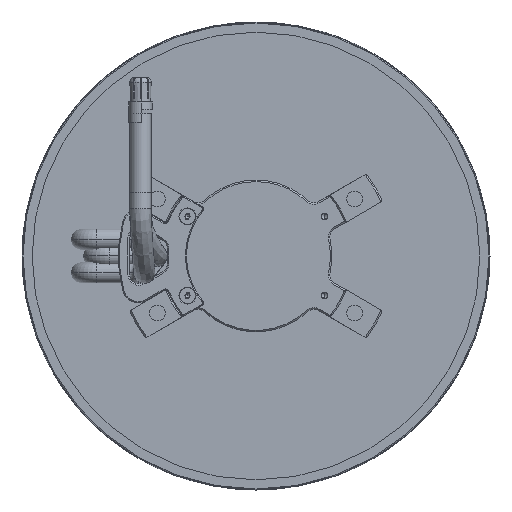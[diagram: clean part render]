
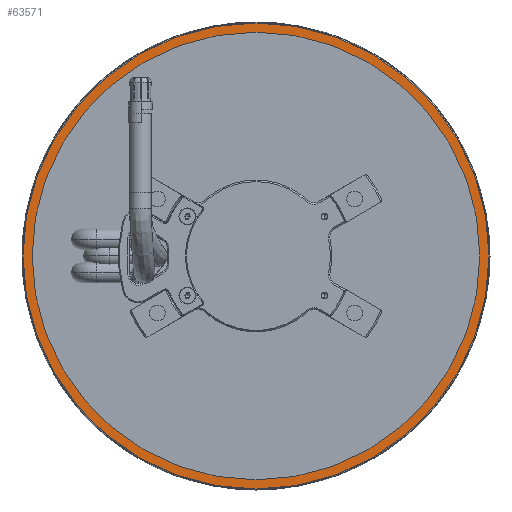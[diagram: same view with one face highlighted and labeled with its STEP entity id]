
A CAD part, front view. The second image highlights one B-rep face of the part: STEP entity #63571.
In plain terms, the highlighted planar face has unit normal (0, -1, 0).
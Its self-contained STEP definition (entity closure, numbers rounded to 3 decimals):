
#4982 = CIRCLE ( 'NONE', #80644, 70.75 ) ;
#7199 = FACE_BOUND ( 'NONE', #34390, .T. ) ;
#7663 = ORIENTED_EDGE ( 'NONE', *, *, #79663, .T. ) ;
#10046 = ORIENTED_EDGE ( 'NONE', *, *, #55168, .F. ) ;
#12040 = CARTESIAN_POINT ( 'NONE',  ( 0., 7.5, -73.65 ) ) ;
#14689 = DIRECTION ( 'NONE',  ( 0., 0., 1. ) ) ;
#17614 = CARTESIAN_POINT ( 'NONE',  ( 0., 7.5, -70.75 ) ) ;
#18661 = VERTEX_POINT ( 'NONE', #83392 ) ;
#20561 = CIRCLE ( 'NONE', #30579, 73.65 ) ;
#26902 = ORIENTED_EDGE ( 'NONE', *, *, #70790, .T. ) ;
#28978 = DIRECTION ( 'NONE',  ( 0., 1., 0. ) ) ;
#29315 = VERTEX_POINT ( 'NONE', #12040 ) ;
#30579 = AXIS2_PLACEMENT_3D ( 'NONE', #88334, #54296, #40432 ) ;
#33275 = AXIS2_PLACEMENT_3D ( 'NONE', #74751, #55497, #34484 ) ;
#34390 = EDGE_LOOP ( 'NONE', ( #26902, #7663 ) ) ;
#34484 = DIRECTION ( 'NONE',  ( 0., 0., 1. ) ) ;
#35261 = ORIENTED_EDGE ( 'NONE', *, *, #81931, .F. ) ;
#35269 = DIRECTION ( 'NONE',  ( 0., 1., 0. ) ) ;
#36141 = DIRECTION ( 'NONE',  ( 0., 0., 1. ) ) ;
#37315 = CARTESIAN_POINT ( 'NONE',  ( 0., 7.5, 0. ) ) ;
#39866 = VERTEX_POINT ( 'NONE', #17614 ) ;
#40432 = DIRECTION ( 'NONE',  ( 0., 0., 1. ) ) ;
#40952 = CIRCLE ( 'NONE', #63797, 73.65 ) ;
#47444 = FACE_OUTER_BOUND ( 'NONE', #77336, .T. ) ;
#50257 = DIRECTION ( 'NONE',  ( 0., 1., 0. ) ) ;
#52681 = VERTEX_POINT ( 'NONE', #70617 ) ;
#54296 = DIRECTION ( 'NONE',  ( 0., 1., 0. ) ) ;
#55168 = EDGE_CURVE ( 'NONE', #18661, #29315, #20561, .T. ) ;
#55497 = DIRECTION ( 'NONE',  ( 0., 1., 0. ) ) ;
#57570 = CARTESIAN_POINT ( 'NONE',  ( 0., 7.5, 0. ) ) ;
#60803 = CIRCLE ( 'NONE', #70818, 70.75 ) ;
#62190 = PLANE ( 'NONE',  #33275 ) ;
#63571 = ADVANCED_FACE ( 'NONE', ( #47444, #7199 ), #62190, .F. ) ;
#63797 = AXIS2_PLACEMENT_3D ( 'NONE', #37315, #50257, #78002 ) ;
#70617 = CARTESIAN_POINT ( 'NONE',  ( 0., 7.5, 70.75 ) ) ;
#70790 = EDGE_CURVE ( 'NONE', #52681, #39866, #4982, .T. ) ;
#70818 = AXIS2_PLACEMENT_3D ( 'NONE', #75564, #28978, #14689 ) ;
#74751 = CARTESIAN_POINT ( 'NONE',  ( 73.65, 7.5, 0. ) ) ;
#75564 = CARTESIAN_POINT ( 'NONE',  ( 0., 7.5, 0. ) ) ;
#77336 = EDGE_LOOP ( 'NONE', ( #10046, #35261 ) ) ;
#78002 = DIRECTION ( 'NONE',  ( 0., 0., 1. ) ) ;
#79663 = EDGE_CURVE ( 'NONE', #39866, #52681, #60803, .T. ) ;
#80644 = AXIS2_PLACEMENT_3D ( 'NONE', #57570, #35269, #36141 ) ;
#81931 = EDGE_CURVE ( 'NONE', #29315, #18661, #40952, .T. ) ;
#83392 = CARTESIAN_POINT ( 'NONE',  ( 0., 7.5, 73.65 ) ) ;
#88334 = CARTESIAN_POINT ( 'NONE',  ( 0., 7.5, 0. ) ) ;
